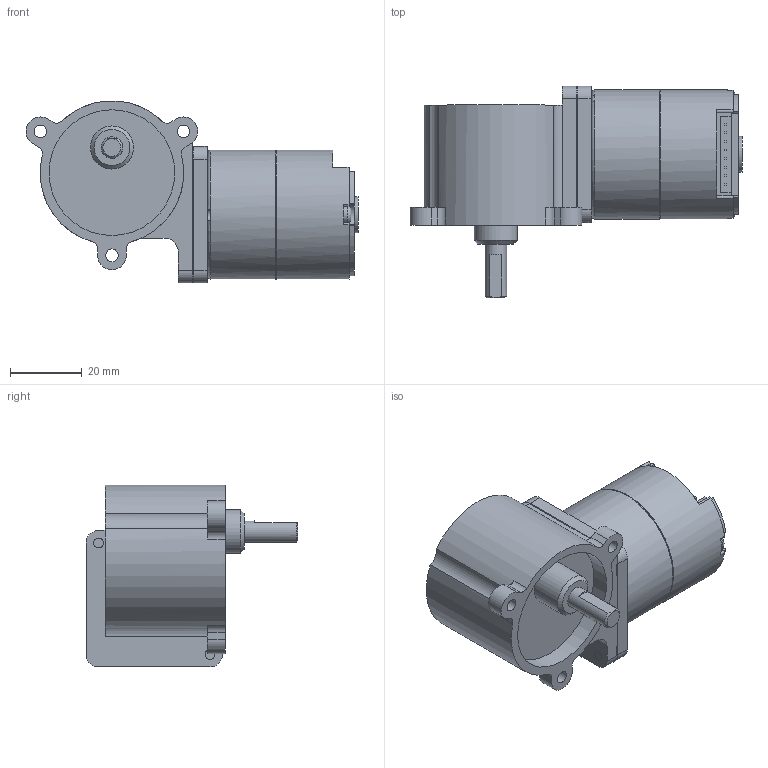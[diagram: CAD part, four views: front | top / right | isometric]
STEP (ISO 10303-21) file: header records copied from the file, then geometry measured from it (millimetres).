
FILE_DESCRIPTION((''),'2;1');
FILE_NAME('C:\Documents and Settings\SSEGAWA\デスクトップ\TP-3641A-KW.stp','2013-07-30T23:17:21',('SSEGAWA'),(''),'Autodesk Inventor 2010','Autodesk Inventor 2010','');
FILE_SCHEMA(('CONFIG_CONTROL_DESIGN'));
Length unit declared in the file: millimetre
Products named in the file (1): tp_3641abcde_kw_Shrinkwrap_1
Bounding box: 92.42 x 59 x 50.63 mm (x, y, z)
Volume: 91607.2 mm3; surface area: 16761.5 mm2
Topology: 1 solids, 9 shells, 220 faces, 545 edges, 361 vertices
Faces by surface type: plane 118, cylinder 60, bspline 36, cone 3, torus 3
Full cylindrical faces by diameter (mm): 2.5 x2, 5 x1, 6 x1, 10 x2, 12 x1, 35 x1, 35.6 x1, 36 x2
Entity records: 6781 total; most frequent: CARTESIAN_POINT 1633, DIRECTION 1020, ORIENTED_EDGE 942, EDGE_CURVE 471, AXIS2_PLACEMENT_3D 370, VERTEX_POINT 332, EDGE_LOOP 291, VECTOR 280
